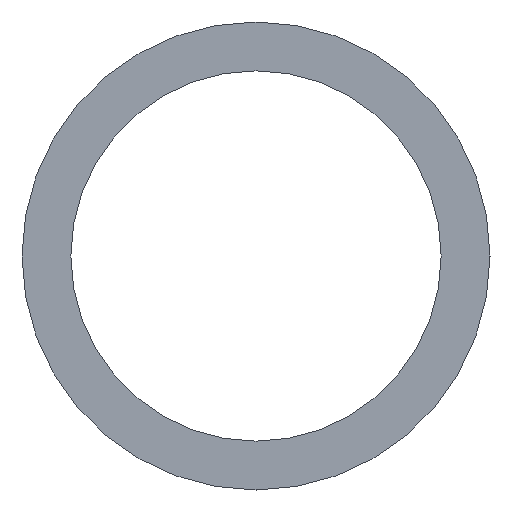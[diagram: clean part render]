
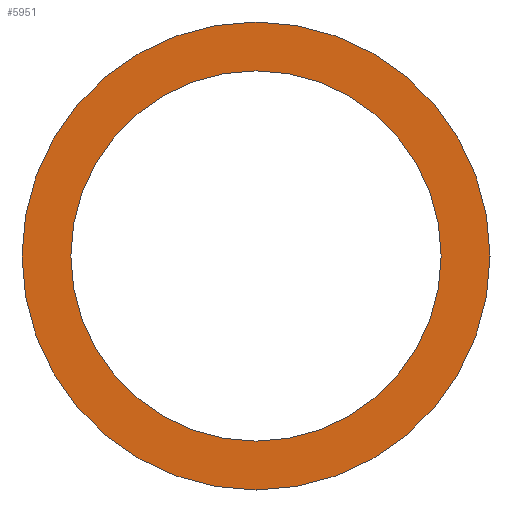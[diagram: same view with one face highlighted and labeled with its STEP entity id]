
A CAD part, front view. The second image highlights one B-rep face of the part: STEP entity #5951.
In plain terms, the highlighted planar face has unit normal (0, -1, 0).
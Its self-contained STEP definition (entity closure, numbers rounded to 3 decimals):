
#270 = PLANE ( 'NONE',  #3752 ) ;
#364 = DIRECTION ( 'NONE',  ( 0., 0., -1. ) ) ;
#407 = DIRECTION ( 'NONE',  ( 0., 0., 1. ) ) ;
#457 = DIRECTION ( 'NONE',  ( 0., -1., 0. ) ) ;
#1112 = AXIS2_PLACEMENT_3D ( 'NONE', #3832, #1419, #6938 ) ;
#1146 = EDGE_CURVE ( 'NONE', #1644, #1971, #1601, .T. ) ;
#1185 = ORIENTED_EDGE ( 'NONE', *, *, #7473, .F. ) ;
#1419 = DIRECTION ( 'NONE',  ( 0., -1., 0. ) ) ;
#1524 = CARTESIAN_POINT ( 'NONE',  ( 0., -58., 180. ) ) ;
#1541 = CARTESIAN_POINT ( 'NONE',  ( 0., -58., -180. ) ) ;
#1561 = CARTESIAN_POINT ( 'NONE',  ( 0., -58., 0. ) ) ;
#1601 = CIRCLE ( 'NONE', #4372, 227.5 ) ;
#1644 = VERTEX_POINT ( 'NONE', #3198 ) ;
#1878 = VERTEX_POINT ( 'NONE', #1541 ) ;
#1971 = VERTEX_POINT ( 'NONE', #4638 ) ;
#2028 = VERTEX_POINT ( 'NONE', #3003 ) ;
#2170 = EDGE_LOOP ( 'NONE', ( #1185, #6155 ) ) ;
#2673 = EDGE_CURVE ( 'NONE', #2028, #1878, #7103, .T. ) ;
#2854 = EDGE_CURVE ( 'NONE', #1971, #1644, #3765, .T. ) ;
#3003 = CARTESIAN_POINT ( 'NONE',  ( 0., -58., 180. ) ) ;
#3114 = AXIS2_PLACEMENT_3D ( 'NONE', #5206, #457, #5784 ) ;
#3198 = CARTESIAN_POINT ( 'NONE',  ( 0., -58., -227.5 ) ) ;
#3321 = CARTESIAN_POINT ( 'NONE',  ( 0., -58., 0. ) ) ;
#3752 = AXIS2_PLACEMENT_3D ( 'NONE', #1524, #4711, #407 ) ;
#3765 = CIRCLE ( 'NONE', #1112, 227.5 ) ;
#3832 = CARTESIAN_POINT ( 'NONE',  ( 0., -58., 0. ) ) ;
#4004 = AXIS2_PLACEMENT_3D ( 'NONE', #3321, #5674, #6301 ) ;
#4372 = AXIS2_PLACEMENT_3D ( 'NONE', #1561, #6438, #364 ) ;
#4638 = CARTESIAN_POINT ( 'NONE',  ( 0., -58., 227.5 ) ) ;
#4711 = DIRECTION ( 'NONE',  ( 0., 1., 0. ) ) ;
#5040 = FACE_BOUND ( 'NONE', #2170, .T. ) ;
#5206 = CARTESIAN_POINT ( 'NONE',  ( 0., -58., 0. ) ) ;
#5674 = DIRECTION ( 'NONE',  ( 0., -1., 0. ) ) ;
#5784 = DIRECTION ( 'NONE',  ( 0., 0., -1. ) ) ;
#5951 = ADVANCED_FACE ( 'NONE', ( #5040, #6074 ), #270, .F. ) ;
#6074 = FACE_OUTER_BOUND ( 'NONE', #6104, .T. ) ;
#6104 = EDGE_LOOP ( 'NONE', ( #6173, #6950 ) ) ;
#6155 = ORIENTED_EDGE ( 'NONE', *, *, #2673, .F. ) ;
#6173 = ORIENTED_EDGE ( 'NONE', *, *, #1146, .T. ) ;
#6301 = DIRECTION ( 'NONE',  ( 0., 0., -1. ) ) ;
#6438 = DIRECTION ( 'NONE',  ( 0., -1., 0. ) ) ;
#6938 = DIRECTION ( 'NONE',  ( 0., 0., -1. ) ) ;
#6950 = ORIENTED_EDGE ( 'NONE', *, *, #2854, .T. ) ;
#7103 = CIRCLE ( 'NONE', #3114, 180. ) ;
#7190 = CIRCLE ( 'NONE', #4004, 180. ) ;
#7473 = EDGE_CURVE ( 'NONE', #1878, #2028, #7190, .T. ) ;
